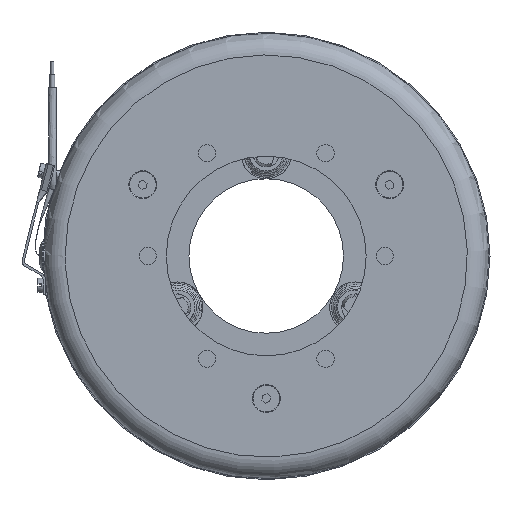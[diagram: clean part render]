
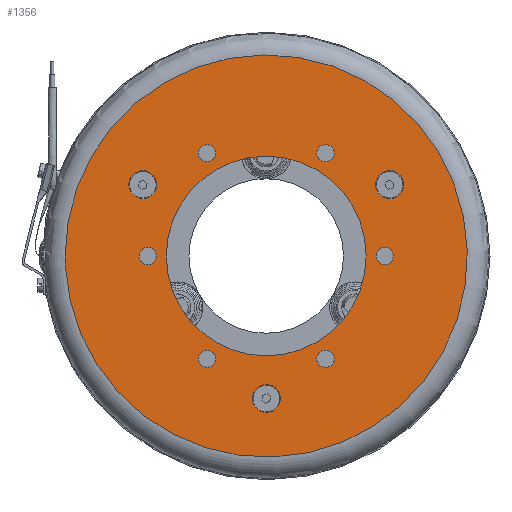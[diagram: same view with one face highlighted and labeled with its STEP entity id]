
A CAD part, left-side view. The second image highlights one B-rep face of the part: STEP entity #1356.
In plain terms, the highlighted planar face has unit normal (-1, 0, 0).
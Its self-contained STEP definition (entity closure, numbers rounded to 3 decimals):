
#389=CARTESIAN_POINT('',(-28.5,75.5,0.0));
#390=VERTEX_POINT('',#389);
#391=CARTESIAN_POINT('',(-28.5,0.,0.0));
#392=DIRECTION('',(1.0,0.0,0.0));
#393=DIRECTION('',(0.0,1.0,0.0));
#394=AXIS2_PLACEMENT_3D('',#391,#392,#393);
#395=CIRCLE('',#394,75.5);
#396=EDGE_CURVE('',#390,#390,#395,.T.);
#521=CARTESIAN_POINT('',(-28.5,-41.786,24.125));
#522=VERTEX_POINT('',#521);
#523=CARTESIAN_POINT('',(-28.5,-46.332,26.75));
#524=DIRECTION('',(1.,0.0,0.0));
#525=DIRECTION('',(0.0,0.866,-0.5));
#526=AXIS2_PLACEMENT_3D('',#523,#524,#525);
#527=CIRCLE('',#526,5.25);
#528=EDGE_CURVE('',#522,#522,#527,.T.);
#652=CARTESIAN_POINT('',(-28.5,41.786,24.125));
#653=VERTEX_POINT('',#652);
#654=CARTESIAN_POINT('',(-28.5,46.332,26.75));
#655=DIRECTION('',(1.,0.0,0.0));
#656=DIRECTION('',(0.0,-0.866,-0.5));
#657=AXIS2_PLACEMENT_3D('',#654,#655,#656);
#658=CIRCLE('',#657,5.25);
#659=EDGE_CURVE('',#653,#653,#658,.T.);
#783=CARTESIAN_POINT('',(-28.5,0.,-48.25));
#784=VERTEX_POINT('',#783);
#785=CARTESIAN_POINT('',(-28.5,0.,-53.5));
#786=DIRECTION('',(1.0,0.0,0.0));
#787=DIRECTION('',(0.0,0.0,1.0));
#788=AXIS2_PLACEMENT_3D('',#785,#786,#787);
#789=CIRCLE('',#788,5.25);
#790=EDGE_CURVE('',#784,#784,#789,.T.);
#835=CARTESIAN_POINT('',(-28.5,25.065,-36.913));
#836=VERTEX_POINT('',#835);
#837=CARTESIAN_POINT('',(-28.5,22.25,-38.538));
#838=DIRECTION('',(1.,0.0,0.0));
#839=DIRECTION('',(0.0,0.866,0.5));
#840=AXIS2_PLACEMENT_3D('',#837,#838,#839);
#841=CIRCLE('',#840,3.25);
#842=EDGE_CURVE('',#836,#836,#841,.T.);
#884=CARTESIAN_POINT('',(-28.5,-19.435,-40.163));
#885=VERTEX_POINT('',#884);
#886=CARTESIAN_POINT('',(-28.5,-22.25,-38.538));
#887=DIRECTION('',(1.0,0.0,0.0));
#888=DIRECTION('',(0.0,0.866,-0.5));
#889=AXIS2_PLACEMENT_3D('',#886,#887,#888);
#890=CIRCLE('',#889,3.25);
#891=EDGE_CURVE('',#885,#885,#890,.T.);
#933=CARTESIAN_POINT('',(-28.5,-44.5,-3.25));
#934=VERTEX_POINT('',#933);
#935=CARTESIAN_POINT('',(-28.5,-44.5,0.));
#936=DIRECTION('',(1.0,0.0,0.0));
#937=DIRECTION('',(0.0,0.0,-1.0));
#938=AXIS2_PLACEMENT_3D('',#935,#936,#937);
#939=CIRCLE('',#938,3.25);
#940=EDGE_CURVE('',#934,#934,#939,.T.);
#982=CARTESIAN_POINT('',(-28.5,-25.065,36.913));
#983=VERTEX_POINT('',#982);
#984=CARTESIAN_POINT('',(-28.5,-22.25,38.538));
#985=DIRECTION('',(1.0,0.0,0.0));
#986=DIRECTION('',(0.0,-0.866,-0.5));
#987=AXIS2_PLACEMENT_3D('',#984,#985,#986);
#988=CIRCLE('',#987,3.25);
#989=EDGE_CURVE('',#983,#983,#988,.T.);
#1031=CARTESIAN_POINT('',(-28.5,19.435,40.163));
#1032=VERTEX_POINT('',#1031);
#1033=CARTESIAN_POINT('',(-28.5,22.25,38.538));
#1034=DIRECTION('',(1.0,0.0,0.0));
#1035=DIRECTION('',(0.0,-0.866,0.5));
#1036=AXIS2_PLACEMENT_3D('',#1033,#1034,#1035);
#1037=CIRCLE('',#1036,3.25);
#1038=EDGE_CURVE('',#1032,#1032,#1037,.T.);
#1080=CARTESIAN_POINT('',(-28.5,44.5,3.25));
#1081=VERTEX_POINT('',#1080);
#1082=CARTESIAN_POINT('',(-28.5,44.5,0.0));
#1083=DIRECTION('',(1.0,0.0,0.0));
#1084=DIRECTION('',(0.0,0.0,1.0));
#1085=AXIS2_PLACEMENT_3D('',#1082,#1083,#1084);
#1086=CIRCLE('',#1085,3.25);
#1087=EDGE_CURVE('',#1081,#1081,#1086,.T.);
#1303=CARTESIAN_POINT('',(-28.5,37.5,0.0));
#1304=VERTEX_POINT('',#1303);
#1305=CARTESIAN_POINT('',(-28.5,0.,0.0));
#1306=DIRECTION('',(1.0,0.0,0.0));
#1307=DIRECTION('',(0.0,1.0,0.0));
#1308=AXIS2_PLACEMENT_3D('',#1305,#1306,#1307);
#1309=CIRCLE('',#1308,37.5);
#1310=EDGE_CURVE('',#1304,#1304,#1309,.T.);
#1318=CARTESIAN_POINT('',(-28.5,56.5,0.0));
#1319=DIRECTION('',(-1.0,0.0,0.0));
#1320=DIRECTION('',(0.0,0.0,1.0));
#1321=AXIS2_PLACEMENT_3D('',#1318,#1319,#1320);
#1322=PLANE('',#1321);
#1323=ORIENTED_EDGE('',*,*,#396,.F.);
#1324=EDGE_LOOP('',(#1323));
#1325=FACE_OUTER_BOUND('',#1324,.T.);
#1326=ORIENTED_EDGE('',*,*,#528,.T.);
#1327=EDGE_LOOP('',(#1326));
#1328=FACE_BOUND('',#1327,.T.);
#1329=ORIENTED_EDGE('',*,*,#659,.T.);
#1330=EDGE_LOOP('',(#1329));
#1331=FACE_BOUND('',#1330,.T.);
#1332=ORIENTED_EDGE('',*,*,#790,.T.);
#1333=EDGE_LOOP('',(#1332));
#1334=FACE_BOUND('',#1333,.T.);
#1335=ORIENTED_EDGE('',*,*,#842,.T.);
#1336=EDGE_LOOP('',(#1335));
#1337=FACE_BOUND('',#1336,.T.);
#1338=ORIENTED_EDGE('',*,*,#891,.T.);
#1339=EDGE_LOOP('',(#1338));
#1340=FACE_BOUND('',#1339,.T.);
#1341=ORIENTED_EDGE('',*,*,#940,.T.);
#1342=EDGE_LOOP('',(#1341));
#1343=FACE_BOUND('',#1342,.T.);
#1344=ORIENTED_EDGE('',*,*,#989,.T.);
#1345=EDGE_LOOP('',(#1344));
#1346=FACE_BOUND('',#1345,.T.);
#1347=ORIENTED_EDGE('',*,*,#1038,.T.);
#1348=EDGE_LOOP('',(#1347));
#1349=FACE_BOUND('',#1348,.T.);
#1350=ORIENTED_EDGE('',*,*,#1087,.T.);
#1351=EDGE_LOOP('',(#1350));
#1352=FACE_BOUND('',#1351,.T.);
#1353=ORIENTED_EDGE('',*,*,#1310,.T.);
#1354=EDGE_LOOP('',(#1353));
#1355=FACE_BOUND('',#1354,.T.);
#1356=ADVANCED_FACE('',(#1325,#1328,#1331,#1334,#1337,#1340,#1343,#1346,#1349,#1352,#1355),#1322,.T.);
